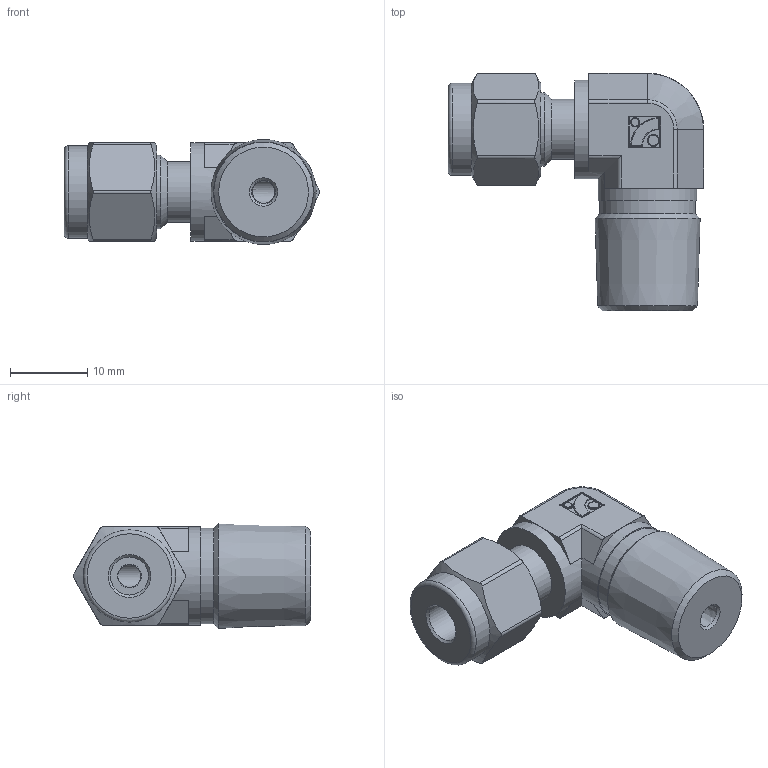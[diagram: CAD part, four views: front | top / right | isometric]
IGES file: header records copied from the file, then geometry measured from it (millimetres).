
Global section: file name: No Iges File Name specified; native system: Autodesk Inventor 2012; preprocessor: AutoDesk Inventor Iges Exporter R2012; author: 硅己绕,,1; organization: 1; date: 20150702.173903; units: millimetre
Bounding box: 32.99 x 30.66 x 13.56 mm (x, y, z)
Volume: 5634.9 mm3; surface area: 2915.3 mm2
Topology: 1 solids, 1 shells, 129 faces, 288 edges, 166 vertices
Faces by surface type: plane 42, cylinder 35, revolution 28, torus 12, cone 8, sphere 4
Full cylindrical faces by diameter (mm): 1.08 x1, 1.44 x1, 7.75 x1, 9.53 x1, 11.9 x1, 12.372 x1, 12.7 x2
